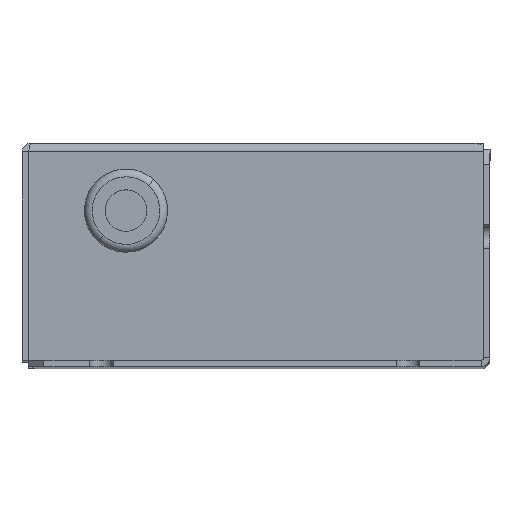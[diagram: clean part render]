
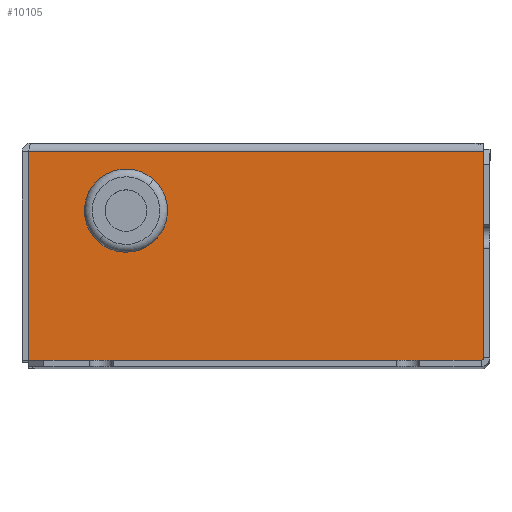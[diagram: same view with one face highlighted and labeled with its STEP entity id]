
A CAD part, top view. The second image highlights one B-rep face of the part: STEP entity #10105.
In plain terms, the highlighted planar face has unit normal (0, 0, 1) as drawn and (0, 0, -1) by its records, which use the part's own axes.
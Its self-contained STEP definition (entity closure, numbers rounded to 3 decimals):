
#575 = DIRECTION ( 'NONE',  ( 0., 0., -1. ) ) ;
#648 = CARTESIAN_POINT ( 'NONE',  ( 68.8, -5.55, -230. ) ) ;
#1076 = ORIENTED_EDGE ( 'NONE', *, *, #1771, .T. ) ;
#1411 = EDGE_CURVE ( 'NONE', #3208, #9313, #9447, .T. ) ;
#1418 = DIRECTION ( 'NONE',  ( 0., 1., 0. ) ) ;
#1561 = DIRECTION ( 'NONE',  ( -1., 0., 0. ) ) ;
#1766 = VERTEX_POINT ( 'NONE', #648 ) ;
#1771 = EDGE_CURVE ( 'NONE', #9313, #7142, #5840, .T. ) ;
#1782 = DIRECTION ( 'NONE',  ( 0., 0., -1. ) ) ;
#2452 = CARTESIAN_POINT ( 'NONE',  ( 0., 0., -230. ) ) ;
#2689 = CIRCLE ( 'NONE', #6569, 6.25 ) ;
#2816 = VECTOR ( 'NONE', #1561, 1000. ) ;
#3174 = ORIENTED_EDGE ( 'NONE', *, *, #3358, .F. ) ;
#3208 = VERTEX_POINT ( 'NONE', #6584 ) ;
#3358 = EDGE_CURVE ( 'NONE', #1766, #5228, #2689, .T. ) ;
#3368 = CARTESIAN_POINT ( 'NONE',  ( 0., -40.6, -230. ) ) ;
#3685 = DIRECTION ( 'NONE',  ( 0., 1., 0. ) ) ;
#3882 = CARTESIAN_POINT ( 'NONE',  ( 87.529, 0., -230. ) ) ;
#4041 = FACE_BOUND ( 'NONE', #7440, .T. ) ;
#4135 = EDGE_CURVE ( 'NONE', #7064, #7142, #5364, .T. ) ;
#4449 = LINE ( 'NONE', #3882, #5640 ) ;
#4470 = CARTESIAN_POINT ( 'NONE',  ( 68.8, -18.05, -230. ) ) ;
#4561 = AXIS2_PLACEMENT_3D ( 'NONE', #11978, #575, #1418 ) ;
#4824 = EDGE_CURVE ( 'NONE', #7064, #3208, #4449, .T. ) ;
#5228 = VERTEX_POINT ( 'NONE', #4470 ) ;
#5261 = PLANE ( 'NONE',  #7511 ) ;
#5364 = LINE ( 'NONE', #10157, #2816 ) ;
#5414 = CIRCLE ( 'NONE', #4561, 6.25 ) ;
#5640 = VECTOR ( 'NONE', #11501, 1000. ) ;
#5840 = LINE ( 'NONE', #2452, #11386 ) ;
#5860 = ORIENTED_EDGE ( 'NONE', *, *, #4135, .F. ) ;
#5907 = ORIENTED_EDGE ( 'NONE', *, *, #4824, .T. ) ;
#6137 = DIRECTION ( 'NONE',  ( 0., 0., 1. ) ) ;
#6177 = DIRECTION ( 'NONE',  ( 0., -1., 0. ) ) ;
#6559 = CARTESIAN_POINT ( 'NONE',  ( 68.8, -11.8, -230. ) ) ;
#6569 = AXIS2_PLACEMENT_3D ( 'NONE', #6559, #1782, #3685 ) ;
#6584 = CARTESIAN_POINT ( 'NONE',  ( 87.529, -40.6, -230. ) ) ;
#7064 = VERTEX_POINT ( 'NONE', #10534 ) ;
#7142 = VERTEX_POINT ( 'NONE', #11885 ) ;
#7197 = DIRECTION ( 'NONE',  ( 0., 1., 0. ) ) ;
#7372 = CARTESIAN_POINT ( 'NONE',  ( 88.8, -40.6, -230. ) ) ;
#7440 = EDGE_LOOP ( 'NONE', ( #3174, #8405 ) ) ;
#7511 = AXIS2_PLACEMENT_3D ( 'NONE', #11833, #6137, #6177 ) ;
#7525 = DIRECTION ( 'NONE',  ( -1., 0., 0. ) ) ;
#7663 = EDGE_LOOP ( 'NONE', ( #5860, #5907, #8599, #1076 ) ) ;
#8405 = ORIENTED_EDGE ( 'NONE', *, *, #9340, .F. ) ;
#8599 = ORIENTED_EDGE ( 'NONE', *, *, #1411, .T. ) ;
#8687 = FACE_OUTER_BOUND ( 'NONE', #7663, .T. ) ;
#9313 = VERTEX_POINT ( 'NONE', #3368 ) ;
#9340 = EDGE_CURVE ( 'NONE', #5228, #1766, #5414, .T. ) ;
#9447 = LINE ( 'NONE', #7372, #11109 ) ;
#10105 = ADVANCED_FACE ( 'NONE', ( #4041, #8687 ), #5261, .F. ) ;
#10157 = CARTESIAN_POINT ( 'NONE',  ( 0., -0.5, -230. ) ) ;
#10534 = CARTESIAN_POINT ( 'NONE',  ( 87.529, -0.5, -230. ) ) ;
#11109 = VECTOR ( 'NONE', #7525, 1000. ) ;
#11386 = VECTOR ( 'NONE', #7197, 1000. ) ;
#11501 = DIRECTION ( 'NONE',  ( 0., -1., 0. ) ) ;
#11833 = CARTESIAN_POINT ( 'NONE',  ( 88.8, 0., -230. ) ) ;
#11885 = CARTESIAN_POINT ( 'NONE',  ( 0., -0.5, -230. ) ) ;
#11978 = CARTESIAN_POINT ( 'NONE',  ( 68.8, -11.8, -230. ) ) ;
